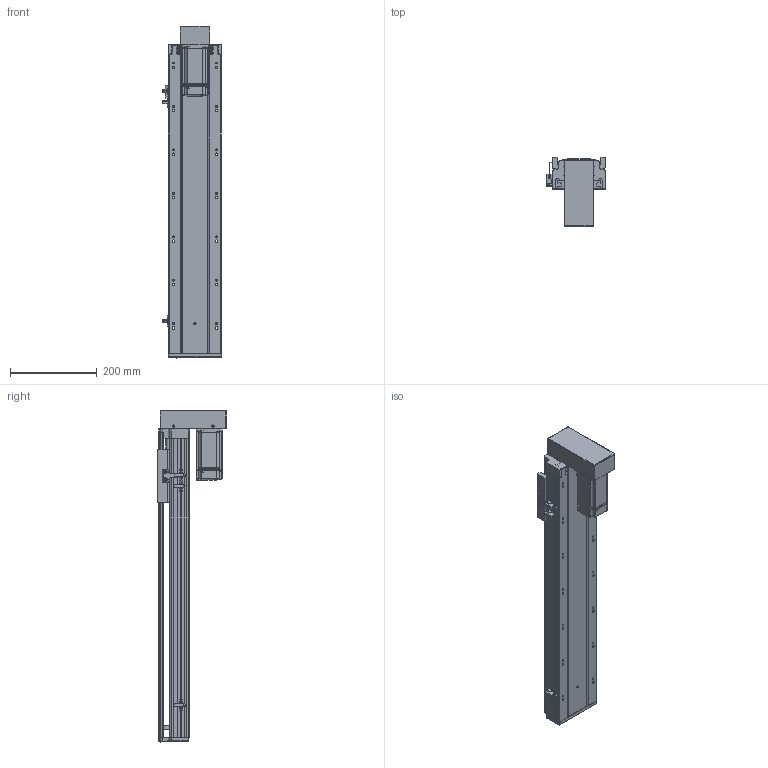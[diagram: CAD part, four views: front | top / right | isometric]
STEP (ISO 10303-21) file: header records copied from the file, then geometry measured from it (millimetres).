
FILE_DESCRIPTION (( 'STEP AP203' ), '1' );
FILE_NAME ('RY120-L2020-300-BK.SLDASM_500.step', '2021-03-12T06:57:34', ( '盈信电脑' ), ( '东莞市道滘镇水果街19号' ), 'SwSTEP 2.0', 'SolidWorks 2012', '' );
FILE_SCHEMA (( 'CONFIG_CONTROL_DESIGN' ));
Length unit declared in the file: millimetre
Products named in the file (15): RY120-400W萇儂傷-BK; RY120-L2020-300-BK.SLDASM_500; RY120下折折电机安装板; 侂狟400W侜督萇儂; 15; RY120狟殏萇儂欶; RY120转拆电端丝杆支撑座(20丝杆，7002轴承); 滅袉蝶18-10; RY120外置感应片(140共用）; 滅袉蝶18-24; RY120綴裔啣; RY120-300-BK蛌殏倰第奻裔啣_500; RY120臏賑輸(20蹟譫); 覜茼ん672; RY120-300-BK蛌殏倰第菁釱_500
Assembly tree (17 placements, depth 4):
  RY120-L2020-300-BK.SLDASM_500
    RY120-300-BK蛌殏倰第菁釱_500
    RY120-300-BK蛌殏倰第奻裔啣_500
    RY120臏賑輸(20蹟譫)
    RY120綴裔啣
    覜茼ん672  x3
    滅袉蝶18-10
    滅袉蝶18-24  x2
    RY120外置感应片(140共用）
    RY120转拆电端丝杆支撑座(20丝杆，7002轴承)
    RY120-400W萇儂傷-BK
      侂狟400W侜督萇儂
        15
      RY120狟殏萇儂欶
      RY120下折折电机安装板
Bounding box: 135.7 x 159.5 x 764 mm (x, y, z)
Volume: 2411002 mm3; surface area: 863434.1 mm2
Topology: 16 solids, 16 shells, 2400 faces, 6595 edges, 4232 vertices
Faces by surface type: plane 1216, cylinder 880, cone 199, bspline 105
Entity records: 79599 total; most frequent: CARTESIAN_POINT 22419, ORIENTED_EDGE 11926, DIRECTION 10991, EDGE_CURVE 5963, VERTEX_POINT 3900, VECTOR 3717, LINE 3717, AXIS2_PLACEMENT_3D 3637
